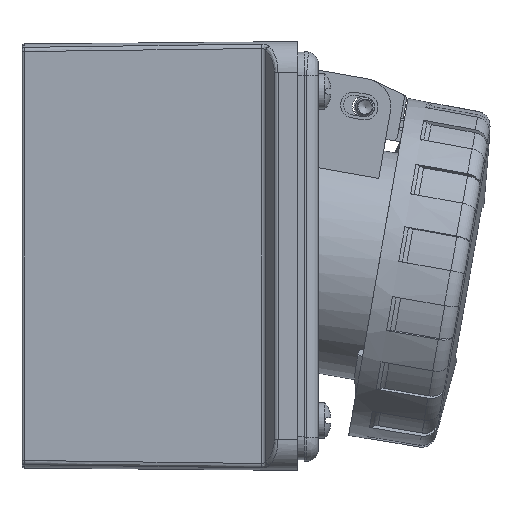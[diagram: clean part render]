
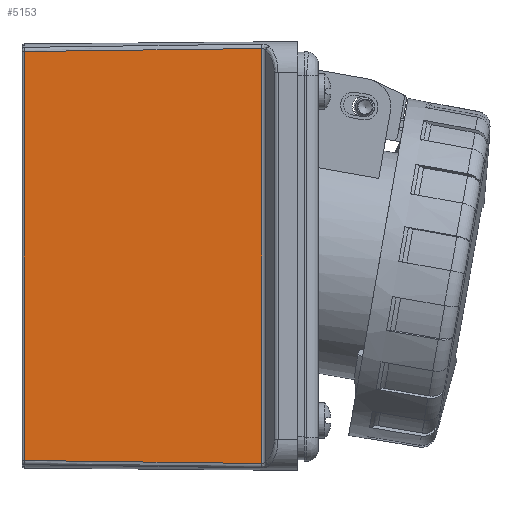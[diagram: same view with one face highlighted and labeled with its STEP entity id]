
A CAD part, front view. The second image highlights one B-rep face of the part: STEP entity #5153.
In plain terms, the highlighted planar face has unit normal (-0.009, -1, 0).
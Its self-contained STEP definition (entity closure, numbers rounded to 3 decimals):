
#640=ELLIPSE('',#19410,630.286,5.5);
#696=ELLIPSE('',#19632,630.286,5.5);
#1672=PLANE('',#19668);
#2803=LINE('',#32969,#4071);
#2806=LINE('',#32975,#4074);
#4071=VECTOR('',#24016,1.);
#4074=VECTOR('',#24025,1.);
#5153=ADVANCED_FACE('',(#6227),#1672,.F.);
#6227=FACE_OUTER_BOUND('',#7337,.T.);
#7337=EDGE_LOOP('',(#11202,#11203,#11204,#11205));
#11202=ORIENTED_EDGE('',*,*,#16632,.T.);
#11203=ORIENTED_EDGE('',*,*,#16577,.T.);
#11204=ORIENTED_EDGE('',*,*,#16635,.F.);
#11205=ORIENTED_EDGE('',*,*,#16261,.F.);
#14080=VERTEX_POINT('',#31017);
#14082=VERTEX_POINT('',#31046);
#14301=VERTEX_POINT('',#32763);
#14303=VERTEX_POINT('',#32810);
#16261=EDGE_CURVE('',#14080,#14082,#640,.T.);
#16577=EDGE_CURVE('',#14301,#14303,#696,.T.);
#16632=EDGE_CURVE('',#14080,#14301,#2803,.T.);
#16635=EDGE_CURVE('',#14082,#14303,#2806,.T.);
#19410=AXIS2_PLACEMENT_3D('',#31045,#23331,#23332);
#19632=AXIS2_PLACEMENT_3D('',#32811,#23909,#23910);
#19668=AXIS2_PLACEMENT_3D('',#32977,#24028,#24029);
#23331=DIRECTION('',(0.009,1.,0.));
#23332=DIRECTION('',(1.,-0.009,-0.009));
#23909=DIRECTION('',(-0.009,-1.,0.));
#23910=DIRECTION('',(-1.,0.009,-0.009));
#24016=DIRECTION('',(0.,0.,1.));
#24025=DIRECTION('',(0.,0.,1.));
#24028=DIRECTION('',(0.009,1.,0.));
#24029=DIRECTION('',(0.,0.,1.));
#31017=CARTESIAN_POINT('',(25.125,-41.292,-66.14));
#31045=CARTESIAN_POINT('',(261.876,-43.358,-63.108));
#31046=CARTESIAN_POINT('',(-25.371,-40.852,-65.497));
#32763=CARTESIAN_POINT('',(25.125,-41.292,22.124));
#32810=CARTESIAN_POINT('',(-25.371,-40.852,21.482));
#32811=CARTESIAN_POINT('',(261.876,-43.358,19.093));
#32969=CARTESIAN_POINT('',(25.125,-41.292,-66.14));
#32975=CARTESIAN_POINT('',(-25.371,-40.852,-65.497));
#32977=CARTESIAN_POINT('',(25.138,-41.293,22.138));
